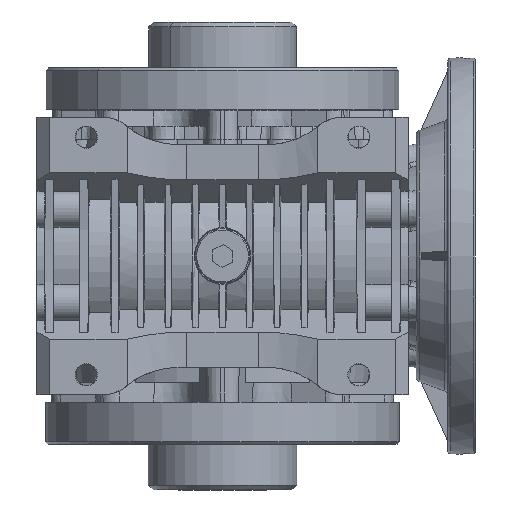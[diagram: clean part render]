
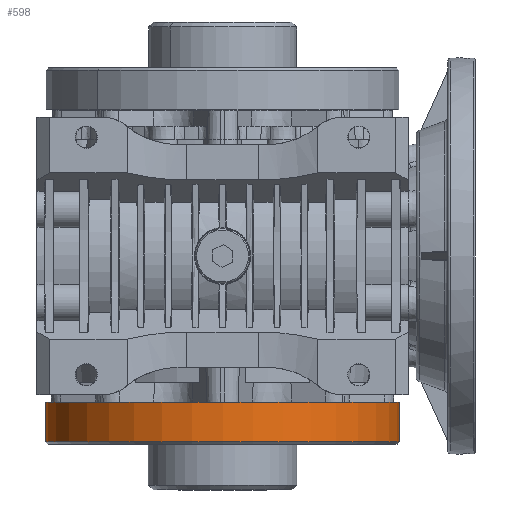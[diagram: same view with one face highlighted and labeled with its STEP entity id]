
A CAD part, front view. The second image highlights one B-rep face of the part: STEP entity #598.
In plain terms, the highlighted cylindrical face has radius 71.5 mm (diameter 143 mm), a partial arc.
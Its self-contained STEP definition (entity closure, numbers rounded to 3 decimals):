
#509 = CARTESIAN_POINT ( 'NONE',  ( -71.5, 0., -75. ) ) ;
#598 = ADVANCED_FACE ( 'NONE', ( #24879 ), #68911, .T. ) ;
#6839 = AXIS2_PLACEMENT_3D ( 'NONE', #77657, #37875, #13321 ) ;
#11086 = VERTEX_POINT ( 'NONE', #55167 ) ;
#12011 = VECTOR ( 'NONE', #43966, 1000. ) ;
#13321 = DIRECTION ( 'NONE',  ( 1., 0., 0. ) ) ;
#14900 = CARTESIAN_POINT ( 'NONE',  ( -71.5, 0., -59. ) ) ;
#24879 = FACE_OUTER_BOUND ( 'NONE', #26366, .T. ) ;
#26366 = EDGE_LOOP ( 'NONE', ( #31143, #66116, #70210, #101610 ) ) ;
#29432 = EDGE_CURVE ( 'NONE', #66479, #97448, #107532, .T. ) ;
#31143 = ORIENTED_EDGE ( 'NONE', *, *, #29432, .F. ) ;
#37875 = DIRECTION ( 'NONE',  ( 0., 0., 1. ) ) ;
#43966 = DIRECTION ( 'NONE',  ( 0., 0., 1. ) ) ;
#48173 = CARTESIAN_POINT ( 'NONE',  ( 0., 0., -59. ) ) ;
#50836 = VERTEX_POINT ( 'NONE', #100168 ) ;
#55167 = CARTESIAN_POINT ( 'NONE',  ( 71.5, 0., -59. ) ) ;
#59121 = EDGE_CURVE ( 'NONE', #66479, #50836, #103046, .T. ) ;
#66116 = ORIENTED_EDGE ( 'NONE', *, *, #59121, .T. ) ;
#66479 = VERTEX_POINT ( 'NONE', #509 ) ;
#68911 = CYLINDRICAL_SURFACE ( 'NONE', #75827, 71.5 ) ;
#70210 = ORIENTED_EDGE ( 'NONE', *, *, #99156, .T. ) ;
#72722 = DIRECTION ( 'NONE',  ( 1., 0., 0. ) ) ;
#73272 = DIRECTION ( 'NONE',  ( 0., 0., 1. ) ) ;
#75792 = CARTESIAN_POINT ( 'NONE',  ( 71.5, 0., -59. ) ) ;
#75827 = AXIS2_PLACEMENT_3D ( 'NONE', #77858, #94061, #84580 ) ;
#77657 = CARTESIAN_POINT ( 'NONE',  ( 0., 0., -75. ) ) ;
#77858 = CARTESIAN_POINT ( 'NONE',  ( 0., 0., -59. ) ) ;
#83721 = EDGE_CURVE ( 'NONE', #97448, #11086, #103299, .T. ) ;
#84580 = DIRECTION ( 'NONE',  ( 1., 0., 0. ) ) ;
#85259 = LINE ( 'NONE', #75792, #12011 ) ;
#87008 = VECTOR ( 'NONE', #106983, 1000. ) ;
#94061 = DIRECTION ( 'NONE',  ( 0., 0., 1. ) ) ;
#96220 = AXIS2_PLACEMENT_3D ( 'NONE', #48173, #73272, #72722 ) ;
#97448 = VERTEX_POINT ( 'NONE', #107764 ) ;
#99156 = EDGE_CURVE ( 'NONE', #50836, #11086, #85259, .T. ) ;
#100168 = CARTESIAN_POINT ( 'NONE',  ( 71.5, 0., -75. ) ) ;
#101610 = ORIENTED_EDGE ( 'NONE', *, *, #83721, .F. ) ;
#103046 = CIRCLE ( 'NONE', #6839, 71.5 ) ;
#103299 = CIRCLE ( 'NONE', #96220, 71.5 ) ;
#106983 = DIRECTION ( 'NONE',  ( 0., 0., 1. ) ) ;
#107532 = LINE ( 'NONE', #14900, #87008 ) ;
#107764 = CARTESIAN_POINT ( 'NONE',  ( -71.5, 0., -59. ) ) ;
